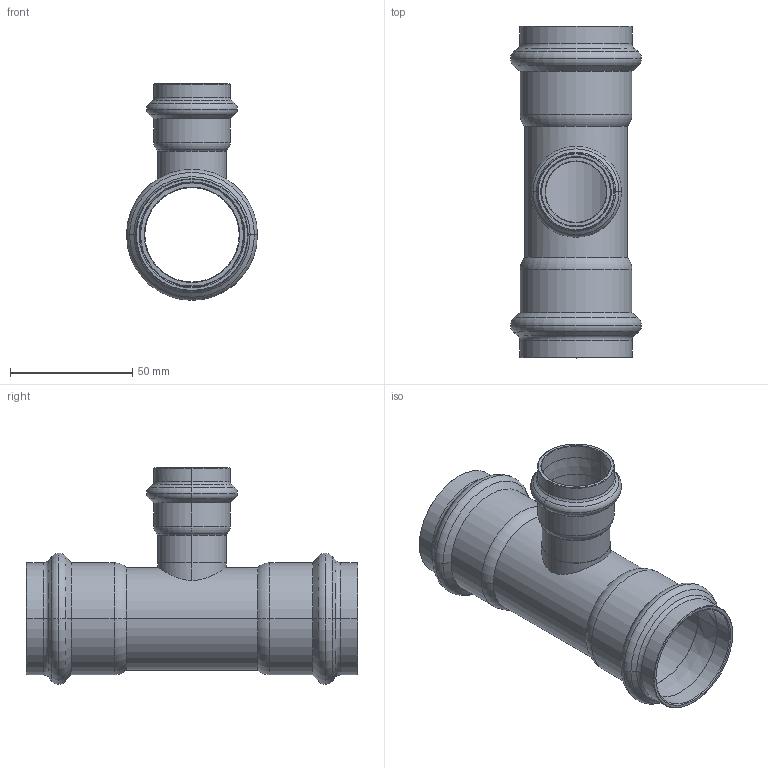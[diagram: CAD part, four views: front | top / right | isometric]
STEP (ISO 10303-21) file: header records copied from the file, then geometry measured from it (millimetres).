
FILE_DESCRIPTION(('CoCreate Modeling STEP Export'),'2;1');
FILE_NAME('8130RVW422842.stp','2013-01-31T14:43:55',(''),(''),'CoCreate Modeling STEP processor for AP214 (Solid Model)','CoCreate Modeling 17.00A 17-Jun-2010 (C) Parametric Technology GmbH','');
FILE_SCHEMA(('AUTOMOTIVE_DESIGN { 1 0 10303 214 1 1 1 1 }'));
Length unit declared in the file: millimetre
Products named in the file (2): 8130RVW422842
Assembly tree (1 placements, depth 2):
  8130RVW422842
    8130RVW422842
Bounding box: 53.61 x 135.73 x 88.65 mm (x, y, z)
Volume: 45846.8 mm3; surface area: 46458.4 mm2
Topology: 1 solids, 1 shells, 134 faces, 284 edges, 160 vertices
Faces by surface type: cylinder 42, torus 42, cone 38, plane 10, bspline 2
Entity records: 5506 total; most frequent: CARTESIAN_POINT 3051, ORIENTED_EDGE 568, DIRECTION 444, EDGE_CURVE 284, AXIS2_PLACEMENT_3D 182, VERTEX_POINT 160, EDGE_LOOP 146, FACE_OUTER_BOUND 134
